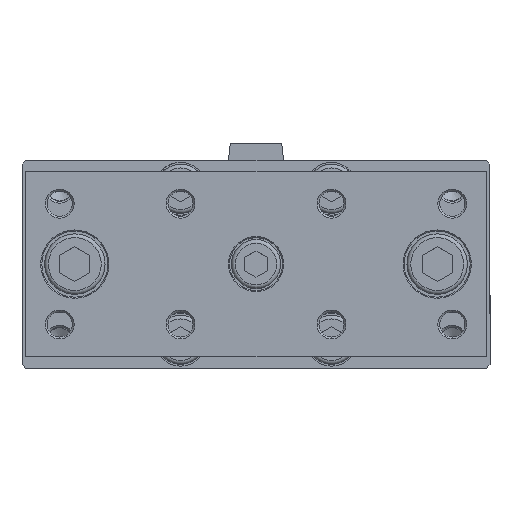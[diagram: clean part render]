
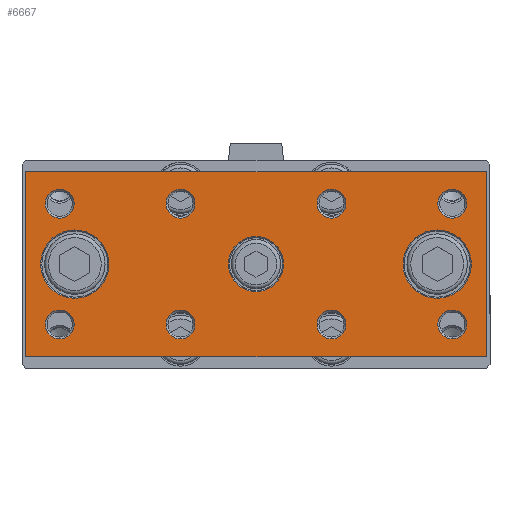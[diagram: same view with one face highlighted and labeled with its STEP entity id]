
A CAD part, top view. The second image highlights one B-rep face of the part: STEP entity #6667.
In plain terms, the highlighted planar face has unit normal (0, 0, 1).
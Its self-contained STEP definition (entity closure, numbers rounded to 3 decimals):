
#6503=CARTESIAN_POINT('',(-38.352,1.555,218.5));
#6504=VERTEX_POINT('',#6503);
#6505=CARTESIAN_POINT('',(-47.402,1.555,218.5));
#6506=DIRECTION('',(0.0,0.0,1.0));
#6507=DIRECTION('',(-1.0,0.0,0.0));
#6508=AXIS2_PLACEMENT_3D('',#6505,#6506,#6507);
#6509=CIRCLE('',#6508,9.05);
#6510=EDGE_CURVE('',#6504,#6504,#6509,.T.);
#6515=CARTESIAN_POINT('',(0.598,5.555,218.5));
#6516=DIRECTION('',(0.0,0.0,1.0));
#6517=DIRECTION('',(1.0,0.0,0.0));
#6518=AXIS2_PLACEMENT_3D('',#6515,#6516,#6517);
#6519=PLANE('',#6518);
#6520=CARTESIAN_POINT('',(61.598,26.055,218.5));
#6521=VERTEX_POINT('',#6520);
#6522=CARTESIAN_POINT('',(61.598,-22.945,218.5));
#6523=VERTEX_POINT('',#6522);
#6524=CARTESIAN_POINT('',(61.598,26.055,218.5));
#6525=DIRECTION('',(0.0,-1.0,0.0));
#6526=VECTOR('',#6525,49.);
#6527=LINE('',#6524,#6526);
#6528=EDGE_CURVE('',#6521,#6523,#6527,.T.);
#6529=ORIENTED_EDGE('',*,*,#6528,.F.);
#6530=CARTESIAN_POINT('',(-60.402,26.055,218.5));
#6531=VERTEX_POINT('',#6530);
#6532=CARTESIAN_POINT('',(-60.402,26.055,218.5));
#6533=DIRECTION('',(1.0,0.0,0.0));
#6534=VECTOR('',#6533,122.0);
#6535=LINE('',#6532,#6534);
#6536=EDGE_CURVE('',#6531,#6521,#6535,.T.);
#6537=ORIENTED_EDGE('',*,*,#6536,.F.);
#6538=CARTESIAN_POINT('',(-60.402,-22.945,218.5));
#6539=VERTEX_POINT('',#6538);
#6540=CARTESIAN_POINT('',(-60.402,-22.945,218.5));
#6541=DIRECTION('',(0.0,1.0,0.0));
#6542=VECTOR('',#6541,49.);
#6543=LINE('',#6540,#6542);
#6544=EDGE_CURVE('',#6539,#6531,#6543,.T.);
#6545=ORIENTED_EDGE('',*,*,#6544,.F.);
#6546=CARTESIAN_POINT('',(61.598,-22.945,218.5));
#6547=DIRECTION('',(-1.0,0.0,0.0));
#6548=VECTOR('',#6547,122.);
#6549=LINE('',#6546,#6548);
#6550=EDGE_CURVE('',#6523,#6539,#6549,.T.);
#6551=ORIENTED_EDGE('',*,*,#6550,.F.);
#6552=EDGE_LOOP('',(#6529,#6537,#6545,#6551));
#6553=FACE_OUTER_BOUND('',#6552,.T.);
#6554=CARTESIAN_POINT('',(7.898,1.555,218.5));
#6555=VERTEX_POINT('',#6554);
#6556=CARTESIAN_POINT('',(0.598,1.555,218.5));
#6557=DIRECTION('',(0.0,0.0,1.0));
#6558=DIRECTION('',(-1.0,0.0,0.0));
#6559=AXIS2_PLACEMENT_3D('',#6556,#6557,#6558);
#6560=CIRCLE('',#6559,7.3);
#6561=EDGE_CURVE('',#6555,#6555,#6560,.T.);
#6562=ORIENTED_EDGE('',*,*,#6561,.F.);
#6563=EDGE_LOOP('',(#6562));
#6564=FACE_BOUND('',#6563,.T.);
#6565=CARTESIAN_POINT('',(24.422,-14.445,218.5));
#6566=VERTEX_POINT('',#6565);
#6567=CARTESIAN_POINT('',(20.598,-14.445,218.5));
#6568=DIRECTION('',(0.0,0.0,1.0));
#6569=DIRECTION('',(-1.0,0.0,0.0));
#6570=AXIS2_PLACEMENT_3D('',#6567,#6568,#6569);
#6571=CIRCLE('',#6570,3.824);
#6572=EDGE_CURVE('',#6566,#6566,#6571,.T.);
#6573=ORIENTED_EDGE('',*,*,#6572,.F.);
#6574=EDGE_LOOP('',(#6573));
#6575=FACE_BOUND('',#6574,.T.);
#6576=CARTESIAN_POINT('',(-47.578,-14.445,218.5));
#6577=VERTEX_POINT('',#6576);
#6578=CARTESIAN_POINT('',(-51.402,-14.445,218.5));
#6579=DIRECTION('',(0.0,0.0,1.0));
#6580=DIRECTION('',(-1.0,0.0,0.0));
#6581=AXIS2_PLACEMENT_3D('',#6578,#6579,#6580);
#6582=CIRCLE('',#6581,3.823);
#6583=EDGE_CURVE('',#6577,#6577,#6582,.T.);
#6584=ORIENTED_EDGE('',*,*,#6583,.F.);
#6585=EDGE_LOOP('',(#6584));
#6586=FACE_BOUND('',#6585,.T.);
#6587=CARTESIAN_POINT('',(56.422,17.555,218.5));
#6588=VERTEX_POINT('',#6587);
#6589=CARTESIAN_POINT('',(52.598,17.555,218.5));
#6590=DIRECTION('',(0.0,0.0,1.0));
#6591=DIRECTION('',(-1.0,0.0,0.0));
#6592=AXIS2_PLACEMENT_3D('',#6589,#6590,#6591);
#6593=CIRCLE('',#6592,3.823);
#6594=EDGE_CURVE('',#6588,#6588,#6593,.T.);
#6595=ORIENTED_EDGE('',*,*,#6594,.F.);
#6596=EDGE_LOOP('',(#6595));
#6597=FACE_BOUND('',#6596,.T.);
#6598=CARTESIAN_POINT('',(56.422,-14.445,218.5));
#6599=VERTEX_POINT('',#6598);
#6600=CARTESIAN_POINT('',(52.598,-14.445,218.5));
#6601=DIRECTION('',(0.0,0.0,1.0));
#6602=DIRECTION('',(-1.0,0.0,0.0));
#6603=AXIS2_PLACEMENT_3D('',#6600,#6601,#6602);
#6604=CIRCLE('',#6603,3.823);
#6605=EDGE_CURVE('',#6599,#6599,#6604,.T.);
#6606=ORIENTED_EDGE('',*,*,#6605,.F.);
#6607=EDGE_LOOP('',(#6606));
#6608=FACE_BOUND('',#6607,.T.);
#6609=CARTESIAN_POINT('',(-47.578,17.555,218.5));
#6610=VERTEX_POINT('',#6609);
#6611=CARTESIAN_POINT('',(-51.402,17.555,218.5));
#6612=DIRECTION('',(0.0,0.0,1.0));
#6613=DIRECTION('',(-1.0,0.0,0.0));
#6614=AXIS2_PLACEMENT_3D('',#6611,#6612,#6613);
#6615=CIRCLE('',#6614,3.823);
#6616=EDGE_CURVE('',#6610,#6610,#6615,.T.);
#6617=ORIENTED_EDGE('',*,*,#6616,.F.);
#6618=EDGE_LOOP('',(#6617));
#6619=FACE_BOUND('',#6618,.T.);
#6620=CARTESIAN_POINT('',(-15.578,17.555,218.5));
#6621=VERTEX_POINT('',#6620);
#6622=CARTESIAN_POINT('',(-19.402,17.555,218.5));
#6623=DIRECTION('',(0.0,0.0,1.0));
#6624=DIRECTION('',(-1.0,0.0,0.0));
#6625=AXIS2_PLACEMENT_3D('',#6622,#6623,#6624);
#6626=CIRCLE('',#6625,3.823);
#6627=EDGE_CURVE('',#6621,#6621,#6626,.T.);
#6628=ORIENTED_EDGE('',*,*,#6627,.F.);
#6629=EDGE_LOOP('',(#6628));
#6630=FACE_BOUND('',#6629,.T.);
#6631=CARTESIAN_POINT('',(24.422,17.555,218.5));
#6632=VERTEX_POINT('',#6631);
#6633=CARTESIAN_POINT('',(20.598,17.555,218.5));
#6634=DIRECTION('',(0.0,0.0,1.0));
#6635=DIRECTION('',(-1.0,0.0,0.0));
#6636=AXIS2_PLACEMENT_3D('',#6633,#6634,#6635);
#6637=CIRCLE('',#6636,3.824);
#6638=EDGE_CURVE('',#6632,#6632,#6637,.T.);
#6639=ORIENTED_EDGE('',*,*,#6638,.F.);
#6640=EDGE_LOOP('',(#6639));
#6641=FACE_BOUND('',#6640,.T.);
#6642=CARTESIAN_POINT('',(-15.578,-14.445,218.5));
#6643=VERTEX_POINT('',#6642);
#6644=CARTESIAN_POINT('',(-19.402,-14.445,218.5));
#6645=DIRECTION('',(0.0,0.0,1.0));
#6646=DIRECTION('',(-1.0,0.0,0.0));
#6647=AXIS2_PLACEMENT_3D('',#6644,#6645,#6646);
#6648=CIRCLE('',#6647,3.823);
#6649=EDGE_CURVE('',#6643,#6643,#6648,.T.);
#6650=ORIENTED_EDGE('',*,*,#6649,.F.);
#6651=EDGE_LOOP('',(#6650));
#6652=FACE_BOUND('',#6651,.T.);
#6653=CARTESIAN_POINT('',(57.648,1.555,218.5));
#6654=VERTEX_POINT('',#6653);
#6655=CARTESIAN_POINT('',(48.598,1.555,218.5));
#6656=DIRECTION('',(0.0,0.0,1.0));
#6657=DIRECTION('',(-1.0,0.0,0.0));
#6658=AXIS2_PLACEMENT_3D('',#6655,#6656,#6657);
#6659=CIRCLE('',#6658,9.05);
#6660=EDGE_CURVE('',#6654,#6654,#6659,.T.);
#6661=ORIENTED_EDGE('',*,*,#6660,.F.);
#6662=EDGE_LOOP('',(#6661));
#6663=FACE_BOUND('',#6662,.T.);
#6664=ORIENTED_EDGE('',*,*,#6510,.F.);
#6665=EDGE_LOOP('',(#6664));
#6666=FACE_BOUND('',#6665,.T.);
#6667=ADVANCED_FACE('',(#6553,#6564,#6575,#6586,#6597,#6608,#6619,#6630,#6641,#6652,#6663,#6666),#6519,.T.);
